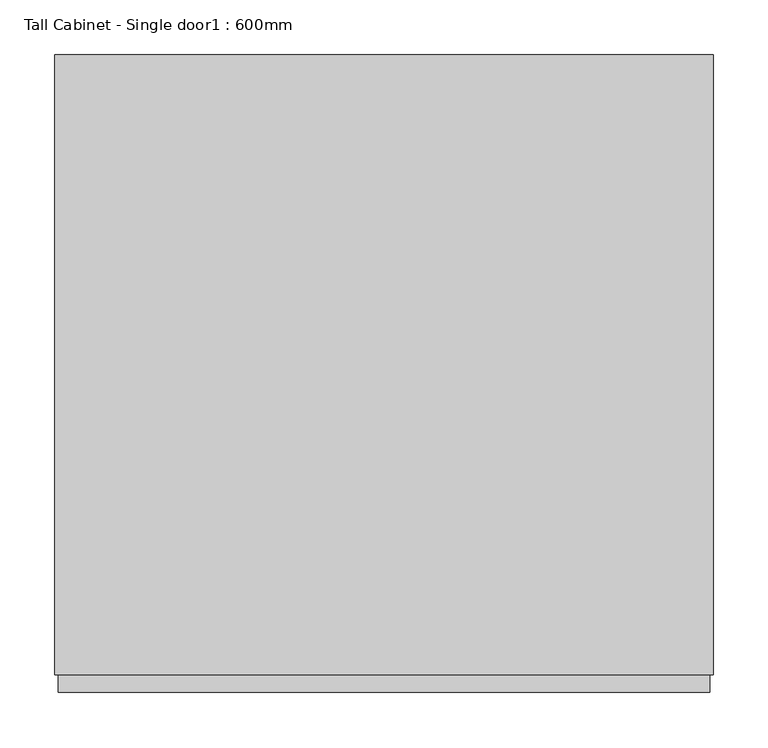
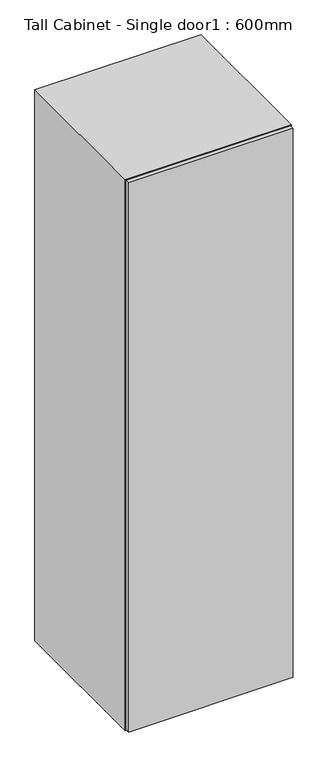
"""IFC4 building model written with IfcOpenShell, lengths in millimetres: furniture geometry, Tall Cabinet - Single door1 : 600mm."""

from ifc_helpers import new_model, si_unit, frame, origin, place, context, project, spatial, polyline, outline, extrude, source, transform, mapped, element, save


def tall_cabinet_single_door1_600mm_2bcce20e(model_context):
    return source(origin(), model_context, "Body", "SweptSolid", [
        extrude(outline(polyline([(341.7003264, -581.0), (-252.2996736, -581.0), (-252.2996736, -565.0), (341.7003264, -565.0), (341.7003264, -581.0)])), frame((0.0, 0.0, 103.0), z_axis=(0.0, 0.0, 1.0), x_axis=(1.0, 0.0, 0.0)), (0.0, 0.0, 1.0), 2094.0),
        extrude(outline(polyline([(328.7003264, -10.0), (328.7003264, -16.0), (-239.2996736, -16.0), (-239.2996736, -10.0), (328.7003264, -10.0)])), frame((0.0, 0.0, 116.0), z_axis=(0.0, 0.0, 1.0), x_axis=(1.0, 0.0, 0.0)), (0.0, 0.0, 1.0), 2076.0),
        extrude(outline(polyline([(2200.0, 344.7003264), (2200.0, -255.2996736), (100.0, -255.2996736), (100.0, 344.7003264), (2200.0, 344.7003264)]), holes=[polyline([(2184.0, 328.7003264), (116.0, 328.7003264), (116.0, -239.2996736), (2184.0, -239.2996736), (2184.0, 328.7003264)])]), frame((0.0, -565.0, 0.0), z_axis=(0.0, 1.0, 0.0), x_axis=(0.0, 0.0, 1.0)), (0.0, 0.0, 1.0), 565.0),
    ])


if __name__ == "__main__":
    model = new_model("IFC4")
    model_context = context("Model", 3, world=origin())
    ifc_project = project(units=[si_unit("LENGTHUNIT", "METRE", prefix="MILLI")], contexts=[model_context])
    site = spatial("IfcSite", under=ifc_project)
    building = spatial("IfcBuilding", under=site)
    placement = place(None, origin())
    tall_cabinet_single_door1_600mm_shape = tall_cabinet_single_door1_600mm_2bcce20e(model_context)
    element("IfcFurniture", 1, ObjectType="Tall Cabinet - Single door1 : 600mm", at=placement, inside=building, context=model_context, shape_type="MappedRepresentation", body=[
        mapped(tall_cabinet_single_door1_600mm_shape, transform((0.0, 0.0, 0.0), x_axis=(1.0, 0.0, 0.0), y_axis=(0.0, 1.0, 0.0), z_axis=(0.0, 0.0, 1.0))),
    ])
    save(model, "model.ifc")
